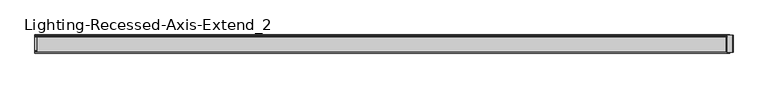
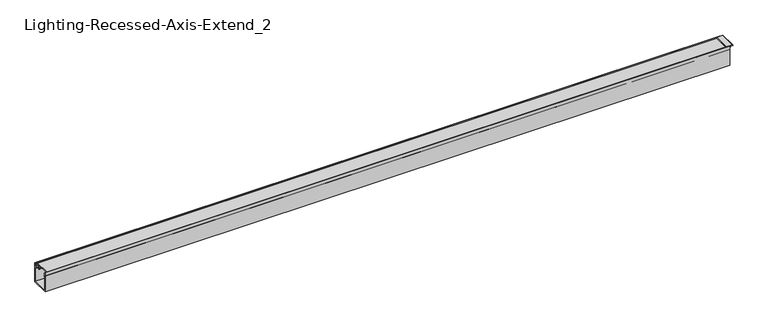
"""IFC4 building model written with IfcOpenShell, lengths in millimetres: light fixture geometry, Lighting-Recessed-Axis-Extend_2 : EX2R-900-80-35-SO-4."""

from ifc_helpers import new_model, si_unit, point, frame, frame_2d, origin, place, context, project, spatial, polyline, circle_curve, trimmed, segment, composite_curve, outline, extrude, source, transform, mapped, element, save


def lighting_recessed_axis_extend_2_f581278c(model_context):
    return source(origin(), model_context, "Body", "SweptSolid", [
        extrude(outline(polyline([(-1.1017139, 1240.4598), (0.0, 1239.5352563), (0.0, 1217.1781437), (-1.1017139, 1216.2536), (-2.57175, 1216.2536), (-2.57175, 1217.04735), (-1.778, 1217.04735), (-1.778, 1223.518), (-4.5842019, 1223.518), (-4.5842019, 1233.1954), (-1.778, 1233.1954), (-1.778, 1239.66605), (-2.57175, 1239.66605), (-2.57175, 1240.4598), (-1.1017139, 1240.4598)])), frame((0.0, -29.972, 0.0), z_axis=(0.0, 1.0, 0.0), x_axis=(0.0, 0.0, 1.0)), (0.0, 0.0, 1.0), 59.944),
        extrude(outline(composite_curve([segment(polyline([(-24.1727262, -4.8895009), (-24.5114181, -11.3521263)]), True, "CONTINUOUS"), segment(trimmed(circle_curve(frame_2d((-27.2542, -14.351)), 4.064), [point((-24.5114181, -11.3521263))], [point((-25.3818814, -17.9580097))], False, "CARTESIAN"), True, "CONTINUOUS"), segment(trimmed(circle_curve(frame_2d((-22.149344, -17.1691543)), 3.3274001), [point((-25.3818814, -17.9580097))], [point((-24.5665956, -19.4557425))], True, "CARTESIAN"), True, "CONTINUOUS"), segment(trimmed(circle_curve(frame_2d((-17.1303177, -12.4214292)), 10.2362001), [point((-24.5665956, -19.4557425))], [point((-23.2119066, -20.6551445))], True, "CARTESIAN"), True, "CONTINUOUS"), segment(trimmed(circle_curve(frame_2d((-23.7023573, -21.3191538)), 0.8255), [point((-23.2119066, -20.6551445))], [point((-24.192808, -21.9831631))], False, "CARTESIAN"), True, "CONTINUOUS"), segment(trimmed(circle_curve(frame_2d((-17.1303169, -12.4214283)), 11.8872013), [point((-24.192808, -21.9831631))], [point((-25.7659952, -20.5903092))], False, "CARTESIAN"), True, "CONTINUOUS"), segment(trimmed(circle_curve(frame_2d((-22.149344, -17.1691543)), 4.9784001), [point((-25.7659952, -20.5903092))], [point((-27.1108807, -16.75974))], False, "CARTESIAN"), True, "CONTINUOUS"), segment(trimmed(circle_curve(frame_2d((-27.2542, -14.351)), 2.413), [point((-27.1108807, -16.75974))], [point((-25.4753941, -12.7205342))], True, "CARTESIAN"), True, "CONTINUOUS"), segment(trimmed(circle_curve(frame_2d((-23.6029669, -11.0042544)), 2.54), [point((-25.4753941, -12.7205342))], [point((-26.1394859, -10.8713211))], False, "CARTESIAN"), True, "CONTINUOUS"), segment(polyline([(-26.1394859, -10.8713211), (-25.825992, -4.8895009), (-28.829, -4.8895009), (-28.829, -2.9845), (28.829, -2.9845), (28.829, -4.8895009), (25.825992, -4.8895009), (26.1394859, -10.8713211)]), True, "CONTINUOUS"), segment(trimmed(circle_curve(frame_2d((23.6029669, -11.0042544)), 2.54), [point((26.1394859, -10.8713211))], [point((25.4753941, -12.7205342))], False, "CARTESIAN"), True, "CONTINUOUS"), segment(trimmed(circle_curve(frame_2d((27.2542, -14.351)), 2.413), [point((25.4753941, -12.7205342))], [point((27.1108807, -16.75974))], True, "CARTESIAN"), True, "CONTINUOUS"), segment(trimmed(circle_curve(frame_2d((22.149344, -17.1691543)), 4.9784001), [point((27.1108807, -16.75974))], [point((25.7659952, -20.5903092))], False, "CARTESIAN"), True, "CONTINUOUS"), segment(trimmed(circle_curve(frame_2d((17.1303169, -12.4214283)), 11.8872013), [point((25.7659952, -20.5903092))], [point((24.192808, -21.9831631))], False, "CARTESIAN"), True, "CONTINUOUS"), segment(trimmed(circle_curve(frame_2d((23.7023573, -21.3191538)), 0.8255), [point((24.192808, -21.9831631))], [point((23.2119066, -20.6551445))], False, "CARTESIAN"), True, "CONTINUOUS"), segment(trimmed(circle_curve(frame_2d((17.1303177, -12.4214292)), 10.2362001), [point((23.2119066, -20.6551445))], [point((24.5665956, -19.4557425))], True, "CARTESIAN"), True, "CONTINUOUS"), segment(trimmed(circle_curve(frame_2d((22.149344, -17.1691543)), 3.3274001), [point((24.5665956, -19.4557425))], [point((25.3818814, -17.9580097))], True, "CARTESIAN"), True, "CONTINUOUS"), segment(trimmed(circle_curve(frame_2d((27.2542, -14.351)), 4.064), [point((25.3818814, -17.9580097))], [point((24.5114181, -11.3521263))], False, "CARTESIAN"), True, "CONTINUOUS"), segment(polyline([(24.5114181, -11.3521263), (24.1727262, -4.8895009), (-24.1727262, -4.8895009)]), True, "CONTINUOUS")], self_intersect=False)), frame((-1219.2, 0.0, 0.0), z_axis=(1.0, 0.0, 0.0), x_axis=(0.0, 1.0, 0.0)), (0.0, 0.0, 1.0), 2438.4),
        extrude(outline(composite_curve([segment(polyline([(-29.972, -14.9098), (-29.972, -69.4055), (29.972, -69.4055), (29.972, -14.9098), (28.1325797, -14.9098)]), True, "CONTINUOUS"), segment(trimmed(circle_curve(frame_2d((26.6262297, -14.9098)), 1.5063501), [point((28.1325797, -14.9098))], [point((25.8730546, -16.2143374))], False, "CARTESIAN"), True, "CONTINUOUS"), segment(trimmed(circle_curve(frame_2d((27.0642121, -14.1511921)), 2.382315), [point((25.8730546, -16.2143374))], [point((24.6896516, -13.9591318))], False, "CARTESIAN"), True, "CONTINUOUS"), segment(polyline([(24.6896516, -13.9591318), (28.067, -11.1252), (28.067, -12.8778), (29.972, -12.8778), (29.972, -6.35), (28.067, -6.35), (28.067, -7.874), (26.416, -7.7874748), (26.416, -5.08), (29.972, -5.08), (29.972, 0.0), (32.004, 0.0), (32.004, -71.4375), (-32.004, -71.4375), (-32.004, 0.0), (-29.972, 0.0), (-29.972, -5.08), (-26.416, -5.08), (-26.416, -7.7874748), (-28.067, -7.874), (-28.067, -6.35), (-29.972, -6.35), (-29.972, -12.8778), (-28.067, -12.8778), (-28.067, -11.1252), (-24.6896516, -13.9591318)]), True, "CONTINUOUS"), segment(trimmed(circle_curve(frame_2d((-27.0642121, -14.1511921)), 2.382315), [point((-24.6896516, -13.9591318))], [point((-25.8730546, -16.2143374))], False, "CARTESIAN"), True, "CONTINUOUS"), segment(trimmed(circle_curve(frame_2d((-26.6262297, -14.9098)), 1.5063501), [point((-25.8730546, -16.2143374))], [point((-28.1325797, -14.9098))], False, "CARTESIAN"), True, "CONTINUOUS"), segment(polyline([(-28.1325797, -14.9098), (-29.972, -14.9098)]), True, "CONTINUOUS")], self_intersect=False)), frame((-1228.3567, 0.0, 0.0), z_axis=(1.0, 0.0, 0.0), x_axis=(0.0, 1.0, 0.0)), (0.0, 0.0, 1.0), 2456.7134),
    ])


if __name__ == "__main__":
    model = new_model("IFC4")
    model_context = context("Model", 3, world=origin())
    ifc_project = project(units=[si_unit("LENGTHUNIT", "METRE", prefix="MILLI")], contexts=[model_context])
    site = spatial("IfcSite", under=ifc_project)
    building = spatial("IfcBuilding", under=site)
    placement = place(None, origin())
    lighting_recessed_axis_extend_2_shape = lighting_recessed_axis_extend_2_f581278c(model_context)
    element("IfcLightFixture", 1, ObjectType="Lighting-Recessed-Axis-Extend_2 : EX2R-900-80-35-SO-4", at=placement, inside=building, context=model_context, shape_type="MappedRepresentation", body=[
        mapped(lighting_recessed_axis_extend_2_shape, transform((0.0, 0.0, 0.0), x_axis=(1.0, 0.0, 0.0), y_axis=(0.0, 1.0, 0.0), z_axis=(0.0, 0.0, 1.0))),
    ])
    save(model, "model.ifc")
